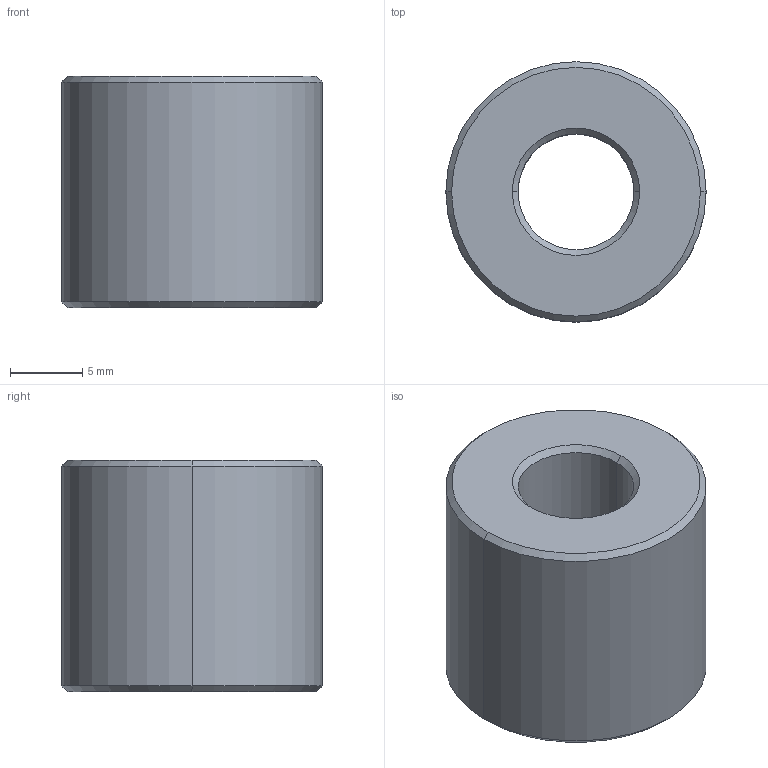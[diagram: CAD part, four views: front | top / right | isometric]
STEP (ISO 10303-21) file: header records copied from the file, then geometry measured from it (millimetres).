
FILE_DESCRIPTION (( 'STEP AP203' ), '1' );
FILE_NAME ('L1330.R08-015.step', '2024-10-24T09:24:48', ( '' ), ( '' ), 'SwSTEP 2.0', 'SolidWorks 2019', '' );
FILE_SCHEMA (( 'CONFIG_CONTROL_DESIGN' ));
Length unit declared in the file: millimetre
Products named in the file (1): L1330.R08-015
Bounding box: 18 x 18 x 16 mm (x, y, z)
Volume: 3254.2 mm3; surface area: 1677 mm2
Topology: 1 solids, 1 shells, 14 faces, 28 edges, 16 vertices
Faces by surface type: cone 8, cylinder 4, plane 2
Entity records: 445 total; most frequent: DIRECTION 74, CARTESIAN_POINT 59, ORIENTED_EDGE 56, AXIS2_PLACEMENT_3D 31, EDGE_CURVE 28, CIRCLE 16, EDGE_LOOP 16, VERTEX_POINT 16
